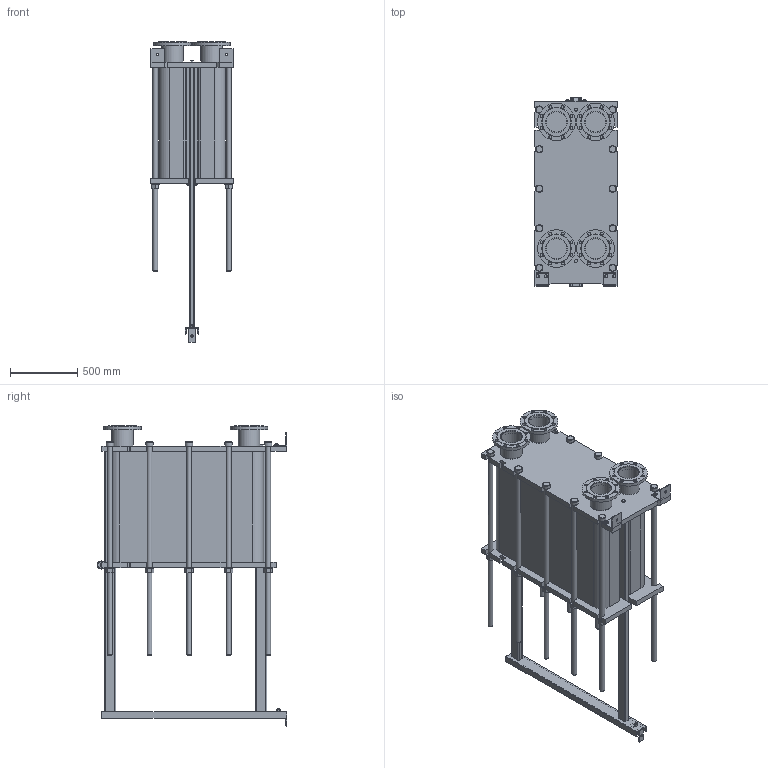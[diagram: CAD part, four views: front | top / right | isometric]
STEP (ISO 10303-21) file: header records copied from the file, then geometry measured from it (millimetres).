
FILE_DESCRIPTION(/* description */ (''),/* implementation_level */ '2;1');
FILE_NAME(/* name */ 'C:\Users\zhuro\Desktop\ENCO\TO\ЭН-041\ЭН-0,5-041-239-1.stp',/* time_stamp */ '2022-06-06T11:08:34+03:00',/* author */ ('zhuro'),/* organization */ (''),/* preprocessor_version */ 'ST-DEVELOPER v18.1',/* originating_system */ 'Autodesk Inventor 2022',/* authorisation */ '');
FILE_SCHEMA (('AUTOMOTIVE_DESIGN { 1 0 10303 214 3 1 1 }'));
Length unit declared in the file: millimetre
Products named in the file (1): ЭН-0,5-041-239-1
Bounding box: 610 x 1406.5 x 2232.5 mm (x, y, z)
Volume: 553998695.8 mm3; surface area: 12089347.1 mm2
Topology: 52 solids, 52 shells, 711 faces, 1696 edges, 1094 vertices
Faces by surface type: plane 487, cylinder 177, cone 41, torus 6
Full cylindrical faces by diameter (mm): 8 x4, 10 x2, 16 x8, 18 x3, 22 x32, 36 x24, 50 x1, 54 x10, 60 x12, 151 x4, 161 x8, 280 x4
Entity records: 22667 total; most frequent: CARTESIAN_POINT 5230, DIRECTION 3644, ORIENTED_EDGE 3392, EDGE_CURVE 1696, AXIS2_PLACEMENT_3D 1272, LINE 1100, VECTOR 1100, VERTEX_POINT 1094
